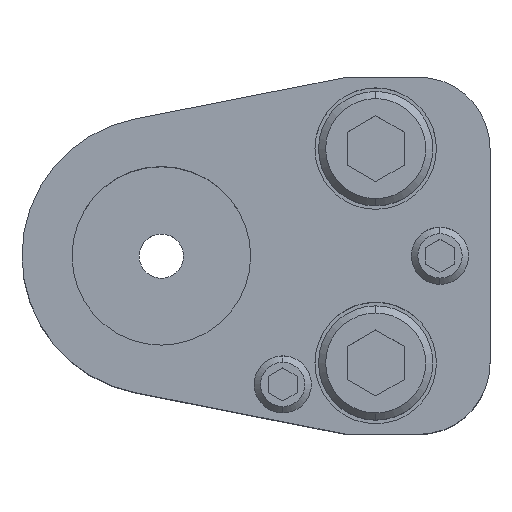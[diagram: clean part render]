
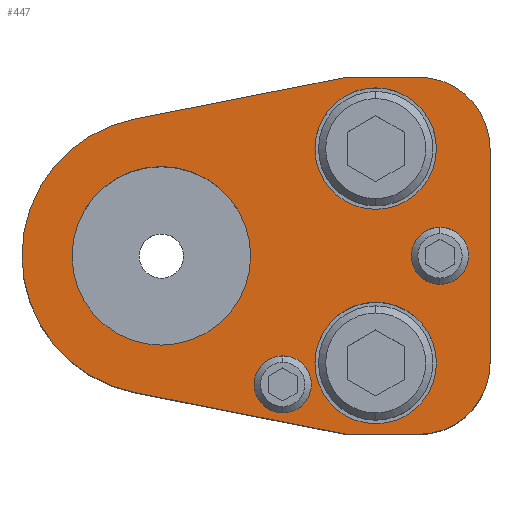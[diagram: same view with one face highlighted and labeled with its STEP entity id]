
A CAD part, top view. The second image highlights one B-rep face of the part: STEP entity #447.
In plain terms, the highlighted planar face has unit normal (0, 0, 1).
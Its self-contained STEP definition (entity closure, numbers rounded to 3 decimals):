
#206=FACE_BOUND('',#807,.T.);
#207=FACE_BOUND('',#808,.T.);
#208=FACE_BOUND('',#809,.T.);
#209=FACE_BOUND('',#810,.T.);
#210=FACE_BOUND('',#811,.T.);
#211=FACE_BOUND('',#812,.T.);
#269=CIRCLE('',#2664,10.);
#271=CIRCLE('',#2668,10.);
#274=CIRCLE('',#2673,19.5);
#275=CIRCLE('',#2678,4.);
#277=CIRCLE('',#2681,4.);
#279=CIRCLE('',#2684,4.);
#281=CIRCLE('',#2687,4.);
#291=CIRCLE('',#2702,8.5);
#292=CIRCLE('',#2703,8.5);
#293=CIRCLE('',#2704,8.5);
#294=CIRCLE('',#2705,8.5);
#295=CIRCLE('',#2706,12.5);
#296=CIRCLE('',#2707,12.5);
#447=ADVANCED_FACE('',(#206,#207,#208,#209,#210,#211),#578,.T.);
#578=PLANE('',#2708);
#807=EDGE_LOOP('',(#1148,#1149,#1150,#1151,#1152,#1153,#1154,#1155));
#808=EDGE_LOOP('',(#1156,#1157));
#809=EDGE_LOOP('',(#1158,#1159));
#810=EDGE_LOOP('',(#1160,#1161));
#811=EDGE_LOOP('',(#1162,#1163));
#812=EDGE_LOOP('',(#1164,#1165));
#1148=ORIENTED_EDGE('',*,*,#1952,.T.);
#1149=ORIENTED_EDGE('',*,*,#1961,.T.);
#1150=ORIENTED_EDGE('',*,*,#1935,.T.);
#1151=ORIENTED_EDGE('',*,*,#1939,.T.);
#1152=ORIENTED_EDGE('',*,*,#1942,.T.);
#1153=ORIENTED_EDGE('',*,*,#1945,.T.);
#1154=ORIENTED_EDGE('',*,*,#1948,.T.);
#1155=ORIENTED_EDGE('',*,*,#1956,.T.);
#1156=ORIENTED_EDGE('',*,*,#1991,.F.);
#1157=ORIENTED_EDGE('',*,*,#1992,.F.);
#1158=ORIENTED_EDGE('',*,*,#1993,.F.);
#1159=ORIENTED_EDGE('',*,*,#1994,.F.);
#1160=ORIENTED_EDGE('',*,*,#1977,.F.);
#1161=ORIENTED_EDGE('',*,*,#1973,.F.);
#1162=ORIENTED_EDGE('',*,*,#1971,.F.);
#1163=ORIENTED_EDGE('',*,*,#1967,.F.);
#1164=ORIENTED_EDGE('',*,*,#1995,.T.);
#1165=ORIENTED_EDGE('',*,*,#1996,.T.);
#1686=VERTEX_POINT('',#3857);
#1687=VERTEX_POINT('',#3859);
#1690=VERTEX_POINT('',#3866);
#1692=VERTEX_POINT('',#3872);
#1694=VERTEX_POINT('',#3878);
#1696=VERTEX_POINT('',#3884);
#1699=VERTEX_POINT('',#3892);
#1700=VERTEX_POINT('',#3894);
#1708=VERTEX_POINT('',#3924);
#1709=VERTEX_POINT('',#3925);
#1712=VERTEX_POINT('',#3936);
#1713=VERTEX_POINT('',#3937);
#1724=VERTEX_POINT('',#3972);
#1725=VERTEX_POINT('',#3973);
#1726=VERTEX_POINT('',#3976);
#1727=VERTEX_POINT('',#3977);
#1728=VERTEX_POINT('',#3980);
#1729=VERTEX_POINT('',#3981);
#1935=EDGE_CURVE('',#1687,#1686,#2269,.T.);
#1939=EDGE_CURVE('',#1686,#1690,#269,.T.);
#1942=EDGE_CURVE('',#1690,#1692,#2274,.T.);
#1945=EDGE_CURVE('',#1692,#1694,#271,.T.);
#1948=EDGE_CURVE('',#1694,#1696,#2278,.T.);
#1952=EDGE_CURVE('',#1700,#1699,#274,.T.);
#1956=EDGE_CURVE('',#1696,#1700,#2284,.T.);
#1961=EDGE_CURVE('',#1699,#1687,#2289,.T.);
#1967=EDGE_CURVE('',#1708,#1709,#275,.T.);
#1971=EDGE_CURVE('',#1709,#1708,#277,.T.);
#1973=EDGE_CURVE('',#1712,#1713,#279,.T.);
#1977=EDGE_CURVE('',#1713,#1712,#281,.T.);
#1991=EDGE_CURVE('',#1724,#1725,#291,.T.);
#1992=EDGE_CURVE('',#1725,#1724,#292,.T.);
#1993=EDGE_CURVE('',#1726,#1727,#293,.T.);
#1994=EDGE_CURVE('',#1727,#1726,#294,.T.);
#1995=EDGE_CURVE('',#1728,#1729,#295,.T.);
#1996=EDGE_CURVE('',#1729,#1728,#296,.T.);
#2269=LINE('',#3858,#2467);
#2274=LINE('',#3873,#2472);
#2278=LINE('',#3885,#2476);
#2284=LINE('',#3901,#2482);
#2289=LINE('',#3909,#2487);
#2467=VECTOR('',#3061,1.);
#2472=VECTOR('',#3074,1.);
#2476=VECTOR('',#3086,1.);
#2482=VECTOR('',#3100,1.);
#2487=VECTOR('',#3107,1.);
#2664=AXIS2_PLACEMENT_3D('',#3867,#3067,#3068);
#2668=AXIS2_PLACEMENT_3D('',#3879,#3079,#3080);
#2673=AXIS2_PLACEMENT_3D('',#3893,#3093,#3094);
#2678=AXIS2_PLACEMENT_3D('',#3923,#3116,#3117);
#2681=AXIS2_PLACEMENT_3D('',#3932,#3124,#3125);
#2684=AXIS2_PLACEMENT_3D('',#3935,#3130,#3131);
#2687=AXIS2_PLACEMENT_3D('',#3944,#3138,#3139);
#2702=AXIS2_PLACEMENT_3D('',#3971,#3172,#3173);
#2703=AXIS2_PLACEMENT_3D('',#3974,#3174,#3175);
#2704=AXIS2_PLACEMENT_3D('',#3975,#3176,#3177);
#2705=AXIS2_PLACEMENT_3D('',#3978,#3178,#3179);
#2706=AXIS2_PLACEMENT_3D('',#3979,#3180,#3181);
#2707=AXIS2_PLACEMENT_3D('',#3982,#3182,#3183);
#2708=AXIS2_PLACEMENT_3D('',#3983,#3184,#3185);
#3061=DIRECTION('',(1.,0.,0.));
#3067=DIRECTION('',(0.,0.,1.));
#3068=DIRECTION('',(-0.707,0.707,0.));
#3074=DIRECTION('',(0.,1.,0.));
#3079=DIRECTION('',(0.,0.,1.));
#3080=DIRECTION('',(-0.707,-0.707,0.));
#3086=DIRECTION('',(-1.,0.,0.));
#3093=DIRECTION('',(0.,0.,1.));
#3094=DIRECTION('',(0.,1.,0.));
#3100=DIRECTION('',(-0.981,-0.193,0.));
#3107=DIRECTION('',(0.981,-0.193,0.));
#3116=DIRECTION('',(0.,0.,1.));
#3117=DIRECTION('',(1.,0.,0.));
#3124=DIRECTION('',(0.,0.,1.));
#3125=DIRECTION('',(-1.,0.,0.));
#3130=DIRECTION('',(0.,0.,1.));
#3131=DIRECTION('',(1.,0.,0.));
#3138=DIRECTION('',(0.,0.,1.));
#3139=DIRECTION('',(-1.,0.,0.));
#3172=DIRECTION('',(0.,0.,1.));
#3173=DIRECTION('',(1.,0.,0.));
#3174=DIRECTION('',(0.,0.,1.));
#3175=DIRECTION('',(-1.,0.,0.));
#3176=DIRECTION('',(0.,0.,1.));
#3177=DIRECTION('',(1.,0.,0.));
#3178=DIRECTION('',(0.,0.,1.));
#3179=DIRECTION('',(-1.,0.,0.));
#3180=DIRECTION('',(0.,0.,-1.));
#3181=DIRECTION('',(-1.,0.,0.));
#3182=DIRECTION('',(0.,0.,-1.));
#3183=DIRECTION('',(1.,0.,0.));
#3184=DIRECTION('',(0.,0.,1.));
#3185=DIRECTION('',(0.981,0.193,0.));
#3857=CARTESIAN_POINT('',(36.,-25.,35.));
#3858=CARTESIAN_POINT('',(26.,-25.,35.));
#3859=CARTESIAN_POINT('',(26.,-25.,35.));
#3866=CARTESIAN_POINT('',(46.,-15.,35.));
#3867=CARTESIAN_POINT('',(36.,-15.,35.));
#3872=CARTESIAN_POINT('',(46.,15.,35.));
#3873=CARTESIAN_POINT('',(46.,-15.,35.));
#3878=CARTESIAN_POINT('',(36.,25.,35.));
#3879=CARTESIAN_POINT('',(36.,15.,35.));
#3884=CARTESIAN_POINT('',(26.,25.,35.));
#3885=CARTESIAN_POINT('',(26.,25.,35.));
#3892=CARTESIAN_POINT('',(-3.771,-19.132,35.));
#3893=CARTESIAN_POINT('',(0.,0.,35.));
#3894=CARTESIAN_POINT('',(-3.771,19.132,35.));
#3901=CARTESIAN_POINT('',(26.,25.,35.));
#3909=CARTESIAN_POINT('',(26.,-25.,35.));
#3923=CARTESIAN_POINT('',(17.,-18.,35.));
#3924=CARTESIAN_POINT('',(17.,-14.,35.));
#3925=CARTESIAN_POINT('',(17.,-22.,35.));
#3932=CARTESIAN_POINT('',(17.,-18.,35.));
#3935=CARTESIAN_POINT('',(39.,0.,35.));
#3936=CARTESIAN_POINT('',(39.,4.,35.));
#3937=CARTESIAN_POINT('',(39.,-4.,35.));
#3944=CARTESIAN_POINT('',(39.,0.,35.));
#3971=CARTESIAN_POINT('',(30.,-15.,35.));
#3972=CARTESIAN_POINT('',(30.,-6.5,35.));
#3973=CARTESIAN_POINT('',(30.,-23.5,35.));
#3974=CARTESIAN_POINT('',(30.,-15.,35.));
#3975=CARTESIAN_POINT('',(30.,15.,35.));
#3976=CARTESIAN_POINT('',(30.,23.5,35.));
#3977=CARTESIAN_POINT('',(30.,6.5,35.));
#3978=CARTESIAN_POINT('',(30.,15.,35.));
#3979=CARTESIAN_POINT('',(0.,0.,35.));
#3980=CARTESIAN_POINT('',(0.,12.5,35.));
#3981=CARTESIAN_POINT('',(0.,-12.5,35.));
#3982=CARTESIAN_POINT('',(0.,0.,35.));
#3983=CARTESIAN_POINT('',(-3.771,19.132,35.));
